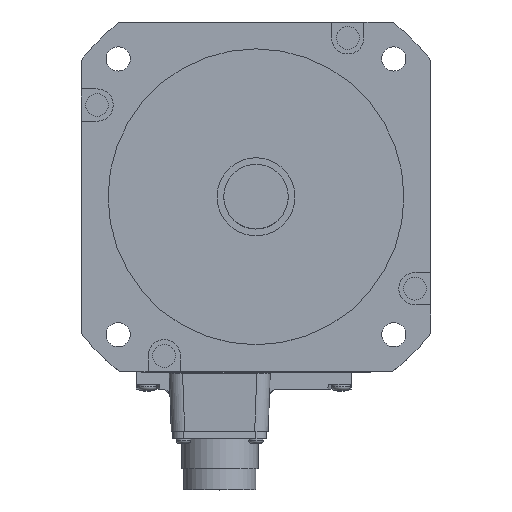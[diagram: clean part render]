
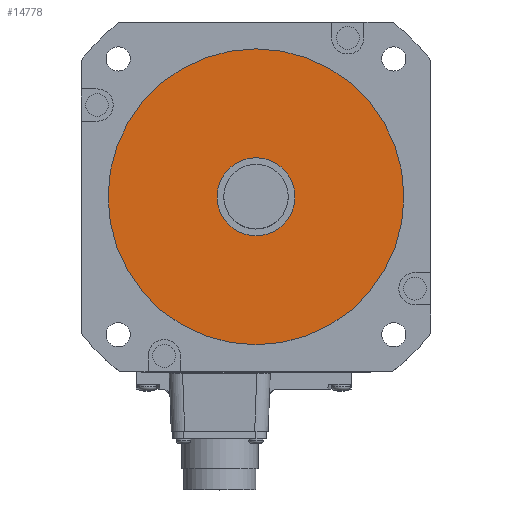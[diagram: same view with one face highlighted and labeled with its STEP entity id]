
A CAD part, top view. The second image highlights one B-rep face of the part: STEP entity #14778.
In plain terms, the highlighted planar face has unit normal (0, 0, 1).
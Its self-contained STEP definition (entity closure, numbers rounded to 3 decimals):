
#5282=CARTESIAN_POINT('',(0.,0.,3.));
#5283=DIRECTION('',(0.,0.,-1.));
#5284=DIRECTION('',(1.,0.,0.));
#5285=AXIS2_PLACEMENT_3D('',#5282,#5283,#5284);
#5287=CARTESIAN_POINT('',(0.,0.,3.));
#5288=DIRECTION('',(0.,0.,-1.));
#5289=DIRECTION('',(-1.,0.,0.));
#5290=AXIS2_PLACEMENT_3D('',#5287,#5288,#5289);
#5292=CARTESIAN_POINT('',(0.,0.,3.));
#5293=DIRECTION('',(0.,0.,1.));
#5294=DIRECTION('',(1.,0.,0.));
#5295=AXIS2_PLACEMENT_3D('',#5292,#5293,#5294);
#5297=CARTESIAN_POINT('',(0.,0.,3.));
#5298=DIRECTION('',(0.,0.,1.));
#5299=DIRECTION('',(-1.,0.,0.));
#5300=AXIS2_PLACEMENT_3D('',#5297,#5298,#5299);
#5960=CARTESIAN_POINT('',(55.,0.,3.));
#5961=VERTEX_POINT('',#5960);
#5962=CARTESIAN_POINT('',(-55.,0.,3.));
#5963=VERTEX_POINT('',#5962);
#6873=CARTESIAN_POINT('',(14.5,0.,3.));
#6874=CARTESIAN_POINT('',(-14.5,0.,3.));
#6875=VERTEX_POINT('',#6873);
#6876=VERTEX_POINT('',#6874);
#14762=CARTESIAN_POINT('',(0.,0.,3.));
#14763=DIRECTION('',(0.,0.,1.));
#14764=DIRECTION('',(1.,0.,0.));
#14765=AXIS2_PLACEMENT_3D('',#14762,#14763,#14764);
#14766=PLANE('',#14765);
#14767=ORIENTED_EDGE('',*,*,#14752,.T.);
#14769=ORIENTED_EDGE('',*,*,#14768,.T.);
#14770=EDGE_LOOP('',(#14767,#14769));
#14771=FACE_OUTER_BOUND('',#14770,.F.);
#14773=ORIENTED_EDGE('',*,*,#14772,.T.);
#14775=ORIENTED_EDGE('',*,*,#14774,.T.);
#14776=EDGE_LOOP('',(#14773,#14775));
#14777=FACE_BOUND('',#14776,.F.);
#14778=ADVANCED_FACE('',(#14771,#14777),#14766,.T.);
#5286=CIRCLE('',#5285,55.);
#5291=CIRCLE('',#5290,55.);
#5296=CIRCLE('',#5295,14.5);
#5301=CIRCLE('',#5300,14.5);
#14752=EDGE_CURVE('',#5961,#5963,#5286,.T.);
#14768=EDGE_CURVE('',#5963,#5961,#5291,.T.);
#14772=EDGE_CURVE('',#6875,#6876,#5296,.T.);
#14774=EDGE_CURVE('',#6876,#6875,#5301,.T.);
